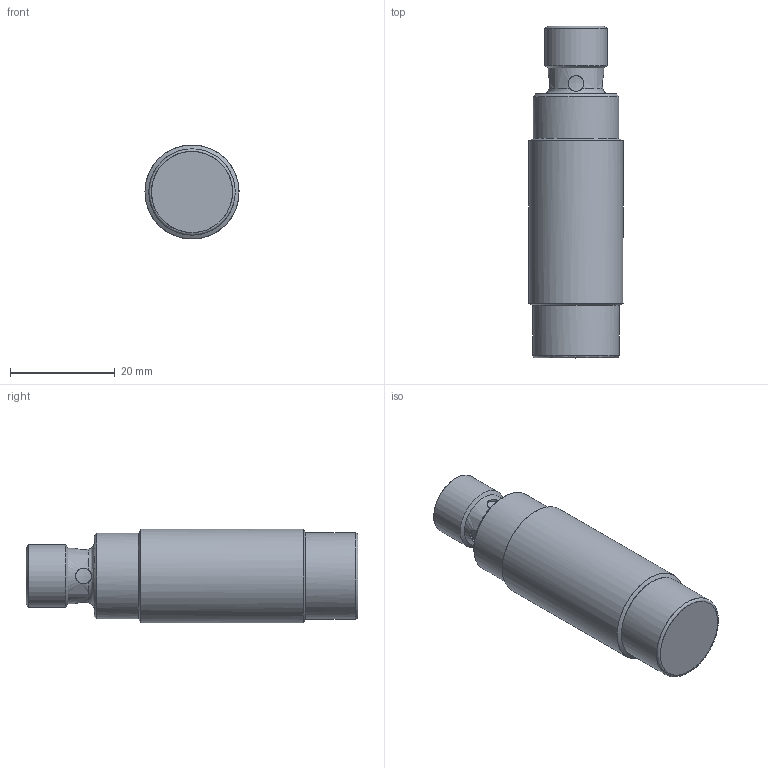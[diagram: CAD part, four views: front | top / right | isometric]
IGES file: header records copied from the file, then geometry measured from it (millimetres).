
Global section: file name: E:\lem\3DCAD_IS218MM_4NC_12N_S12.igs; native system: NX V8.5; preprocessor: SIEMENS PLM Software NX 8.5; date: 20161130.101017; units: millimetre
Bounding box: 18 x 63.5 x 17.98 mm (x, y, z)
Surface area: 4065.7 mm2 (no closed solid volume)
Topology: 0 solids, 0 shells, 161 faces, 1127 edges, 1104 vertices
Faces by surface type: bspline 161
